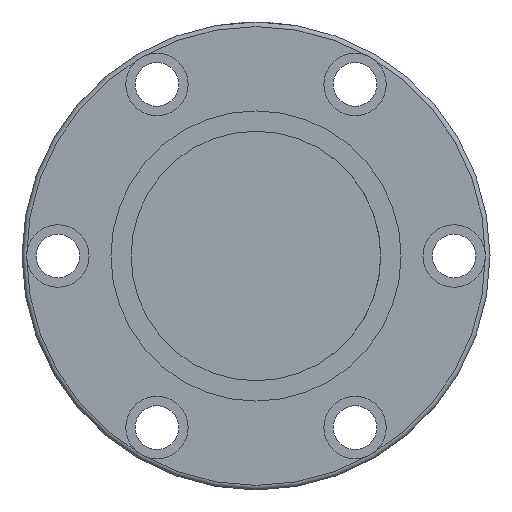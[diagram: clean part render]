
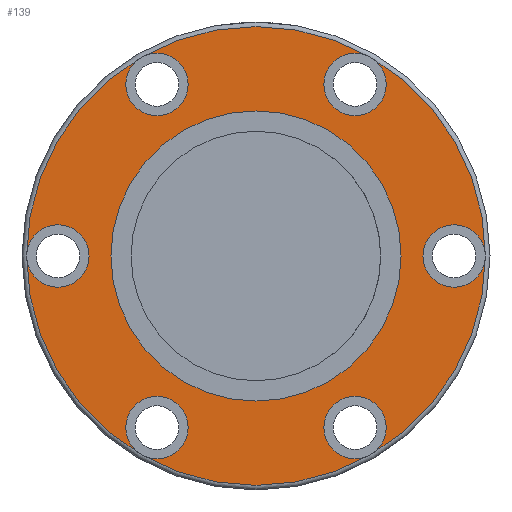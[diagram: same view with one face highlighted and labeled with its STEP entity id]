
A CAD part, front view. The second image highlights one B-rep face of the part: STEP entity #139.
In plain terms, the highlighted planar face has unit normal (0, -1, 0).
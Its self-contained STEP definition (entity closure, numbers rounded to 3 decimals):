
#113=PLANE('',#662);
#139=ADVANCED_FACE('',(#213,#214,#215,#216,#217,#218,#219,#220),#113,.F.);
#213=FACE_BOUND('',#310,.T.);
#214=FACE_BOUND('',#311,.T.);
#215=FACE_BOUND('',#312,.T.);
#216=FACE_BOUND('',#313,.T.);
#217=FACE_BOUND('',#314,.T.);
#218=FACE_BOUND('',#315,.T.);
#219=FACE_BOUND('',#316,.T.);
#220=FACE_BOUND('',#317,.T.);
#310=EDGE_LOOP('',(#408));
#311=EDGE_LOOP('',(#409));
#312=EDGE_LOOP('',(#410));
#313=EDGE_LOOP('',(#411));
#314=EDGE_LOOP('',(#412));
#315=EDGE_LOOP('',(#413));
#316=EDGE_LOOP('',(#414));
#317=EDGE_LOOP('',(#415));
#408=ORIENTED_EDGE('',*,*,#545,.T.);
#409=ORIENTED_EDGE('',*,*,#546,.T.);
#410=ORIENTED_EDGE('',*,*,#547,.T.);
#411=ORIENTED_EDGE('',*,*,#548,.T.);
#412=ORIENTED_EDGE('',*,*,#549,.T.);
#413=ORIENTED_EDGE('',*,*,#550,.T.);
#414=ORIENTED_EDGE('',*,*,#551,.T.);
#415=ORIENTED_EDGE('',*,*,#552,.F.);
#496=VERTEX_POINT('',#944);
#497=VERTEX_POINT('',#946);
#498=VERTEX_POINT('',#948);
#499=VERTEX_POINT('',#950);
#500=VERTEX_POINT('',#952);
#501=VERTEX_POINT('',#954);
#502=VERTEX_POINT('',#956);
#503=VERTEX_POINT('',#958);
#545=EDGE_CURVE('',#496,#496,#594,.T.);
#546=EDGE_CURVE('',#497,#497,#595,.T.);
#547=EDGE_CURVE('',#498,#498,#596,.T.);
#548=EDGE_CURVE('',#499,#499,#597,.T.);
#549=EDGE_CURVE('',#500,#500,#598,.T.);
#550=EDGE_CURVE('',#501,#501,#599,.T.);
#551=EDGE_CURVE('',#502,#502,#600,.T.);
#552=EDGE_CURVE('',#503,#503,#601,.T.);
#594=CIRCLE('',#654,10.);
#595=CIRCLE('',#655,10.);
#596=CIRCLE('',#656,10.);
#597=CIRCLE('',#657,10.);
#598=CIRCLE('',#658,10.);
#599=CIRCLE('',#659,10.);
#600=CIRCLE('',#660,73.533);
#601=CIRCLE('',#661,46.5);
#654=AXIS2_PLACEMENT_3D('',#943,#769,#770);
#655=AXIS2_PLACEMENT_3D('',#945,#771,#772);
#656=AXIS2_PLACEMENT_3D('',#947,#773,#774);
#657=AXIS2_PLACEMENT_3D('',#949,#775,#776);
#658=AXIS2_PLACEMENT_3D('',#951,#777,#778);
#659=AXIS2_PLACEMENT_3D('',#953,#779,#780);
#660=AXIS2_PLACEMENT_3D('',#955,#781,#782);
#661=AXIS2_PLACEMENT_3D('',#957,#783,#784);
#662=AXIS2_PLACEMENT_3D('',#959,#785,#786);
#769=DIRECTION('',(0.,1.,0.));
#770=DIRECTION('',(0.,0.,1.));
#771=DIRECTION('',(0.,1.,0.));
#772=DIRECTION('',(0.,0.,1.));
#773=DIRECTION('',(0.,1.,0.));
#774=DIRECTION('',(0.,0.,1.));
#775=DIRECTION('',(0.,1.,0.));
#776=DIRECTION('',(0.,0.,1.));
#777=DIRECTION('',(0.,1.,0.));
#778=DIRECTION('',(0.,0.,1.));
#779=DIRECTION('',(0.,1.,0.));
#780=DIRECTION('',(0.,0.,1.));
#781=DIRECTION('',(0.,-1.,0.));
#782=DIRECTION('',(0.,0.,1.));
#783=DIRECTION('',(0.,-1.,0.));
#784=DIRECTION('',(1.,0.,0.));
#785=DIRECTION('',(0.,1.,0.));
#786=DIRECTION('',(0.,0.,1.));
#943=CARTESIAN_POINT('',(63.539,-46.461,0.));
#944=CARTESIAN_POINT('',(63.539,-46.461,10.));
#945=CARTESIAN_POINT('',(-63.461,-46.461,0.));
#946=CARTESIAN_POINT('',(-63.461,-46.461,10.));
#947=CARTESIAN_POINT('',(31.789,-46.461,-54.993));
#948=CARTESIAN_POINT('',(31.789,-46.461,-44.993));
#949=CARTESIAN_POINT('',(-31.711,-46.461,-54.993));
#950=CARTESIAN_POINT('',(-31.711,-46.461,-44.993));
#951=CARTESIAN_POINT('',(31.789,-46.461,54.993));
#952=CARTESIAN_POINT('',(31.789,-46.461,64.993));
#953=CARTESIAN_POINT('',(-31.711,-46.461,54.993));
#954=CARTESIAN_POINT('',(-31.711,-46.461,64.993));
#955=CARTESIAN_POINT('',(0.039,-46.461,0.));
#956=CARTESIAN_POINT('',(0.039,-46.461,73.533));
#957=CARTESIAN_POINT('',(0.039,-46.461,0.));
#958=CARTESIAN_POINT('',(46.539,-46.461,0.));
#959=CARTESIAN_POINT('',(0.039,-46.461,0.));
